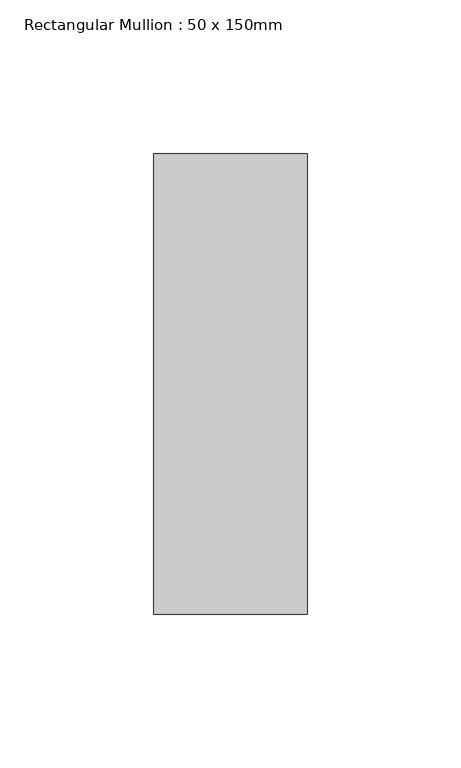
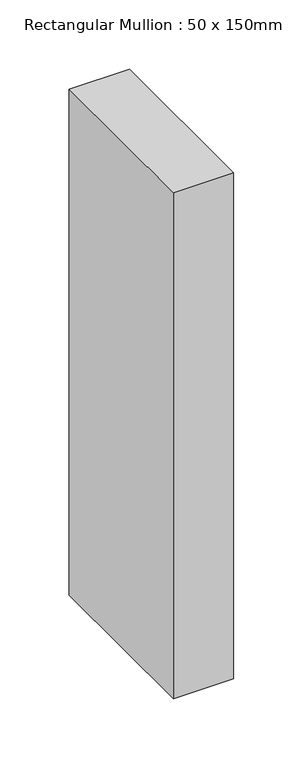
"""IFC4 building model written with IfcOpenShell, lengths in millimetres: member geometry, Rectangular Mullion : 50 x 150mm."""

from ifc_helpers import new_model, si_unit, frame, origin, place, context, project, spatial, polyline, outline, extrude, source, transform, mapped, element, save


def rectangular_mullion_50_x_150mm_a06870f1(model_context):
    return source(origin(), model_context, "Body", "SweptSolid", [
        extrude(outline(polyline([(0.0, 75.0), (0.0, -75.0), (-50.0, -75.0), (-50.0, 75.0), (0.0, 75.0)])), frame((0.0, 0.0, -444.7425895), z_axis=(0.0, 0.0, 1.0), x_axis=(1.0, 0.0, 0.0)), (0.0, 0.0, 1.0), 444.7425895),
    ])


if __name__ == "__main__":
    model = new_model("IFC4")
    model_context = context("Model", 3, world=origin())
    ifc_project = project(units=[si_unit("LENGTHUNIT", "METRE", prefix="MILLI")], contexts=[model_context])
    site = spatial("IfcSite", under=ifc_project)
    building = spatial("IfcBuilding", under=site)
    placement = place(None, origin())
    rectangular_mullion_50_x_150mm_shape = rectangular_mullion_50_x_150mm_a06870f1(model_context)
    element("IfcMember", 1, ObjectType="Rectangular Mullion : 50 x 150mm", at=placement, inside=building, context=model_context, shape_type="MappedRepresentation", body=[
        mapped(rectangular_mullion_50_x_150mm_shape, transform((0.0, 0.0, 0.0), x_axis=(1.0, 0.0, 0.0), y_axis=(0.0, 1.0, 0.0), z_axis=(0.0, 0.0, 1.0))),
    ])
    save(model, "model.ifc")
